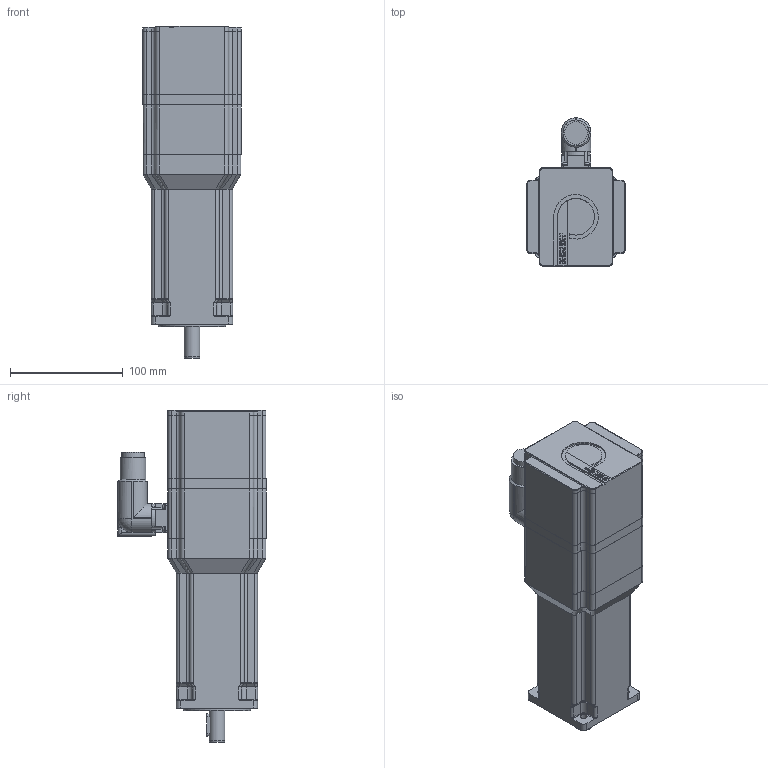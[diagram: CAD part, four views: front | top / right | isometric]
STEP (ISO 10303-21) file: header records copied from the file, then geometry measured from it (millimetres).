
FILE_DESCRIPTION(/* description */ (''),/* implementation_level */ '2;1');
FILE_NAME(/* name */ 'C:\Autodesk Vault\AUTODESK_VAULT\CAD\000-FERTIG Motors\UM-Motoren\UM070\_Gesamtbaugruppen\vereinfachte_Modelle\2021_03_22_AMP8031-xxx1-1001.stp',/* time_stamp */ '2021-03-22T08:41:45+01:00',/* author */ ('JoachimH'),/* organization */ ('FERTIG Motors'),/* preprocessor_version */ 'ST-DEVELOPER v18.1',/* originating_system */ 'Autodesk Inventor 2020',/* authorisation */ '');
FILE_SCHEMA (('CONFIG_CONTROL_DESIGN'));
Length unit declared in the file: millimetre
Products named in the file (4): UM070-VM-01; UM070-VM-00; EtherCATP_M23-VM; DIN 6885-A5x5x20
Assembly tree (3 placements, depth 2):
  UM070-VM-01
    UM070-VM-00
    EtherCATP_M23-VM
    DIN 6885-A5x5x20
Bounding box: 87.15 x 131.4 x 294.3 mm (x, y, z)
Volume: 1606109.1 mm3; surface area: 105783 mm2
Topology: 3 solids, 3 shells, 583 faces, 1495 edges, 928 vertices
Faces by surface type: plane 264, cylinder 169, bspline 112, torus 29, cone 7, sphere 2
Full cylindrical faces by diameter (mm): 4.8 x3, 6 x4, 13.6 x1, 14 x1, 17 x1, 20 x2, 20.1 x1, 23 x1, 60 x1
Entity records: 19824 total; most frequent: CARTESIAN_POINT 5359, ORIENTED_EDGE 2966, DIRECTION 2735, EDGE_CURVE 1483, AXIS2_PLACEMENT_3D 938, VERTEX_POINT 928, LINE 859, VECTOR 859
